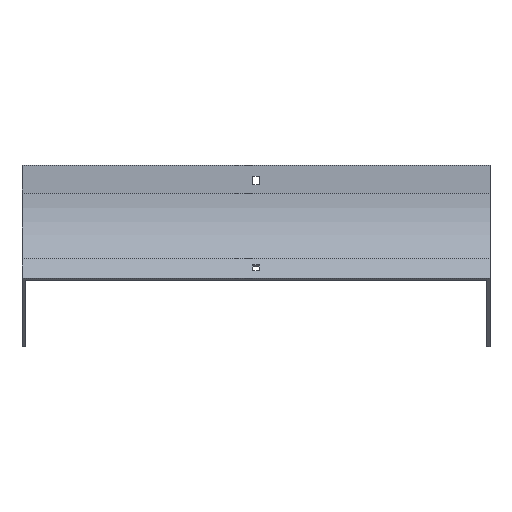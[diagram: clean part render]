
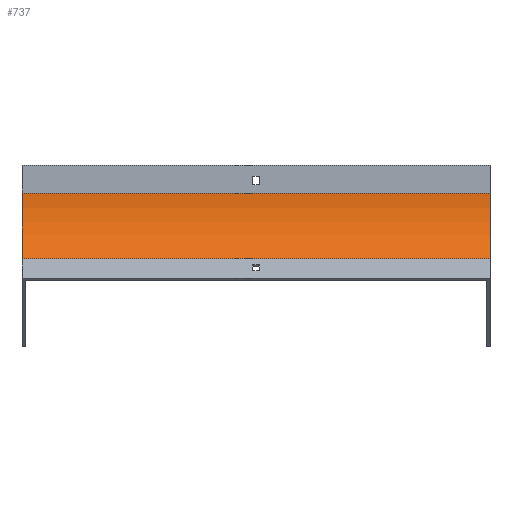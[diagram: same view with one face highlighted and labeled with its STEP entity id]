
A CAD part, front view. The second image highlights one B-rep face of the part: STEP entity #737.
In plain terms, the highlighted cylindrical face has radius 100 mm (diameter 200 mm), a partial arc.
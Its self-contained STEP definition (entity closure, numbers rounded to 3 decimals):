
#37 = ORIENTED_EDGE ( 'NONE', *, *, #238, .T. ) ;
#114 = DIRECTION ( 'NONE',  ( -1., 0., 0. ) ) ;
#117 = CIRCLE ( 'NONE', #439, 100. ) ;
#188 = VECTOR ( 'NONE', #114, 1000. ) ;
#238 = EDGE_CURVE ( 'NONE', #352, #1354, #1765, .T. ) ;
#241 = CARTESIAN_POINT ( 'NONE',  ( 252., -100., -30. ) ) ;
#276 = CARTESIAN_POINT ( 'NONE',  ( -252., -29.289, -100.711 ) ) ;
#280 = VECTOR ( 'NONE', #565, 1000. ) ;
#314 = AXIS2_PLACEMENT_3D ( 'NONE', #933, #917, #1242 ) ;
#352 = VERTEX_POINT ( 'NONE', #628 ) ;
#405 = CARTESIAN_POINT ( 'NONE',  ( 252., -29.289, -100.711 ) ) ;
#439 = AXIS2_PLACEMENT_3D ( 'NONE', #241, #694, #981 ) ;
#458 = ORIENTED_EDGE ( 'NONE', *, *, #1796, .F. ) ;
#565 = DIRECTION ( 'NONE',  ( -1., 0., 0. ) ) ;
#628 = CARTESIAN_POINT ( 'NONE',  ( 252., 0., -30. ) ) ;
#694 = DIRECTION ( 'NONE',  ( -1., 0., 0. ) ) ;
#705 = CARTESIAN_POINT ( 'NONE',  ( 252., -100., -30. ) ) ;
#737 = ADVANCED_FACE ( 'NONE', ( #1565 ), #1006, .F. ) ;
#917 = DIRECTION ( 'NONE',  ( -1., 0., 0. ) ) ;
#933 = CARTESIAN_POINT ( 'NONE',  ( -252., -100., -30. ) ) ;
#981 = DIRECTION ( 'NONE',  ( 0., 0., 1. ) ) ;
#1006 = CYLINDRICAL_SURFACE ( 'NONE', #1089, 100. ) ;
#1018 = VERTEX_POINT ( 'NONE', #276 ) ;
#1032 = EDGE_CURVE ( 'NONE', #1854, #1018, #1318, .T. ) ;
#1089 = AXIS2_PLACEMENT_3D ( 'NONE', #705, #1718, #1435 ) ;
#1242 = DIRECTION ( 'NONE',  ( 0., 0., 1. ) ) ;
#1318 = LINE ( 'NONE', #1729, #280 ) ;
#1354 = VERTEX_POINT ( 'NONE', #1702 ) ;
#1435 = DIRECTION ( 'NONE',  ( 0., 0., 1. ) ) ;
#1454 = CARTESIAN_POINT ( 'NONE',  ( 252., 0., -30. ) ) ;
#1488 = EDGE_CURVE ( 'NONE', #1354, #1018, #1845, .T. ) ;
#1492 = ORIENTED_EDGE ( 'NONE', *, *, #1032, .F. ) ;
#1505 = ORIENTED_EDGE ( 'NONE', *, *, #1488, .T. ) ;
#1565 = FACE_OUTER_BOUND ( 'NONE', #1870, .T. ) ;
#1702 = CARTESIAN_POINT ( 'NONE',  ( -252., 0., -30. ) ) ;
#1718 = DIRECTION ( 'NONE',  ( -1., 0., 0. ) ) ;
#1729 = CARTESIAN_POINT ( 'NONE',  ( 252., -29.289, -100.711 ) ) ;
#1765 = LINE ( 'NONE', #1454, #188 ) ;
#1796 = EDGE_CURVE ( 'NONE', #352, #1854, #117, .T. ) ;
#1845 = CIRCLE ( 'NONE', #314, 100. ) ;
#1854 = VERTEX_POINT ( 'NONE', #405 ) ;
#1870 = EDGE_LOOP ( 'NONE', ( #1505, #1492, #458, #37 ) ) ;
